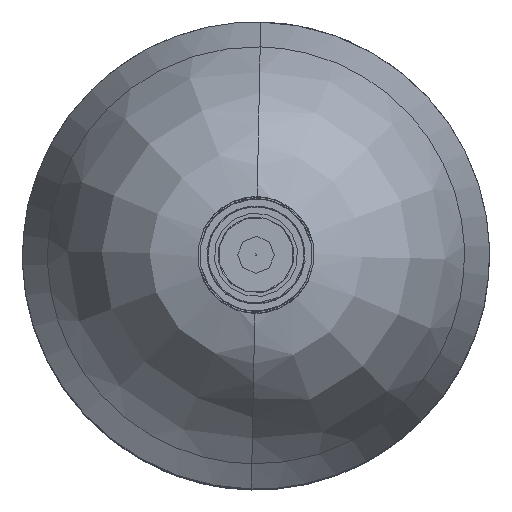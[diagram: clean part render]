
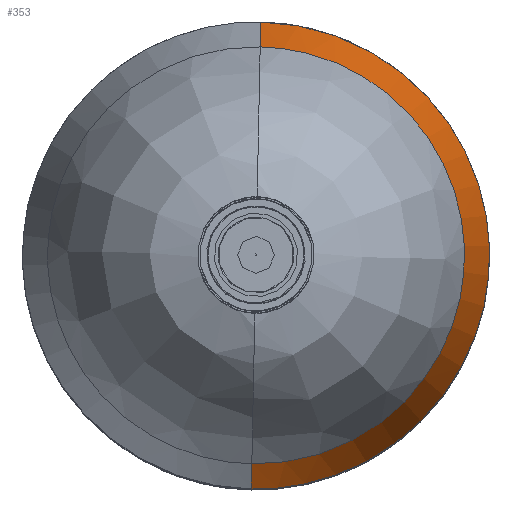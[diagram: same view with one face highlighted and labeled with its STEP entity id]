
A CAD part, top view. The second image highlights one B-rep face of the part: STEP entity #353.
In plain terms, the highlighted free-form (B-spline) face has degree [1, 2] with [2, 5] control points.
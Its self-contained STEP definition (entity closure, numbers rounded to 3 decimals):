
#353=ADVANCED_FACE('',(#693),#4617,.T.);
#693=FACE_OUTER_BOUND('',#1025,.T.);
#1025=EDGE_LOOP('',(#1936,#1937,#1938,#1939));
#1936=ORIENTED_EDGE('',*,*,#3032,.T.);
#1937=ORIENTED_EDGE('',*,*,#3011,.F.);
#1938=ORIENTED_EDGE('',*,*,#3021,.F.);
#1939=ORIENTED_EDGE('',*,*,#3018,.F.);
#3011=EDGE_CURVE('',#4362,#4361,#3641,.T.);
#3018=EDGE_CURVE('',#4366,#4367,#3648,.T.);
#3021=EDGE_CURVE('',#4367,#4362,#3651,.T.);
#3032=EDGE_CURVE('',#4366,#4361,#3660,.T.);
#3641=(
BOUNDED_CURVE()
B_SPLINE_CURVE(2,(#10194,#10195,#10196,#10197,#10198),.UNSPECIFIED.,.F.,
 .F.)
B_SPLINE_CURVE_WITH_KNOTS((3,2,3),(-4.712,-3.142,-1.571),
 .UNSPECIFIED.)
CURVE()
GEOMETRIC_REPRESENTATION_ITEM()
RATIONAL_B_SPLINE_CURVE((1.,0.707,1.,0.707,1.))
REPRESENTATION_ITEM('')
);
#3648=(
BOUNDED_CURVE()
B_SPLINE_CURVE(2,(#10224,#10225,#10226,#10227,#10228),.UNSPECIFIED.,.F.,
 .F.)
B_SPLINE_CURVE_WITH_KNOTS((3,2,3),(-3.142,-1.571,0.),
 .UNSPECIFIED.)
CURVE()
GEOMETRIC_REPRESENTATION_ITEM()
RATIONAL_B_SPLINE_CURVE((1.,0.707,1.,0.707,
1.))
REPRESENTATION_ITEM('')
);
#3651=(
BOUNDED_CURVE()
B_SPLINE_CURVE(1,(#10239,#10240),.UNSPECIFIED.,.F.,.F.)
B_SPLINE_CURVE_WITH_KNOTS((2,2),(0.,52.747),
 .UNSPECIFIED.)
CURVE()
GEOMETRIC_REPRESENTATION_ITEM()
RATIONAL_B_SPLINE_CURVE((1.,1.))
REPRESENTATION_ITEM('')
);
#3660=(
BOUNDED_CURVE()
B_SPLINE_CURVE(1,(#10450,#10451),.UNSPECIFIED.,.F.,.F.)
B_SPLINE_CURVE_WITH_KNOTS((2,2),(0.,52.747),
 .UNSPECIFIED.)
CURVE()
GEOMETRIC_REPRESENTATION_ITEM()
RATIONAL_B_SPLINE_CURVE((1.,1.))
REPRESENTATION_ITEM('')
);
#4361=VERTEX_POINT('',#9968);
#4362=VERTEX_POINT('',#9969);
#4366=VERTEX_POINT('',#9973);
#4367=VERTEX_POINT('',#9974);
#4617=(
BOUNDED_SURFACE()
B_SPLINE_SURFACE(1,2,((#9774,#9775,#9776,#9777,#9778),(#9779,#9780,#9781,
#9782,#9783)),.UNSPECIFIED.,.F.,.F.,.F.)
B_SPLINE_SURFACE_WITH_KNOTS((2,2),(3,2,3),(0.,52.747),
(480.723,721.085,961.447),.UNSPECIFIED.)
GEOMETRIC_REPRESENTATION_ITEM()
RATIONAL_B_SPLINE_SURFACE(((1.,0.707,1.,0.707,1.),
(1.,0.707,1.,0.707,1.)))
REPRESENTATION_ITEM('')
SURFACE()
);
#9774=CARTESIAN_POINT('',(2.408,117.261,69.861));
#9775=CARTESIAN_POINT('',(122.565,114.853,69.861));
#9776=CARTESIAN_POINT('',(120.157,-5.304,69.861));
#9777=CARTESIAN_POINT('',(117.749,-125.46,69.861));
#9778=CARTESIAN_POINT('',(-2.408,-123.052,69.861));
#9779=CARTESIAN_POINT('',(2.15,104.371,119.357));
#9780=CARTESIAN_POINT('',(109.416,102.221,119.357));
#9781=CARTESIAN_POINT('',(107.267,-5.045,119.357));
#9782=CARTESIAN_POINT('',(105.117,-112.312,119.357));
#9783=CARTESIAN_POINT('',(-2.15,-110.162,119.357));
#9968=CARTESIAN_POINT('',(2.15,104.371,119.357));
#9969=CARTESIAN_POINT('',(-2.15,-110.162,119.357));
#9973=CARTESIAN_POINT('',(2.408,117.261,69.861));
#9974=CARTESIAN_POINT('',(-2.408,-123.052,69.861));
#10194=CARTESIAN_POINT('',(-2.15,-110.162,119.357));
#10195=CARTESIAN_POINT('',(105.117,-112.312,119.357));
#10196=CARTESIAN_POINT('',(107.267,-5.045,119.357));
#10197=CARTESIAN_POINT('',(109.416,102.221,119.357));
#10198=CARTESIAN_POINT('',(2.15,104.371,119.357));
#10224=CARTESIAN_POINT('',(2.408,117.261,69.861));
#10225=CARTESIAN_POINT('',(122.565,114.853,69.861));
#10226=CARTESIAN_POINT('',(120.157,-5.304,69.861));
#10227=CARTESIAN_POINT('',(117.749,-125.46,69.861));
#10228=CARTESIAN_POINT('',(-2.408,-123.052,69.861));
#10239=CARTESIAN_POINT('',(-2.408,-123.052,69.861));
#10240=CARTESIAN_POINT('',(-2.15,-110.162,119.357));
#10450=CARTESIAN_POINT('',(2.408,117.261,69.861));
#10451=CARTESIAN_POINT('',(2.15,104.371,119.357));
